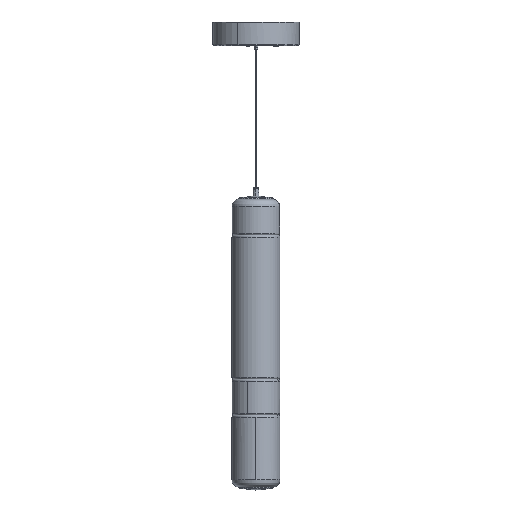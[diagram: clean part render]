
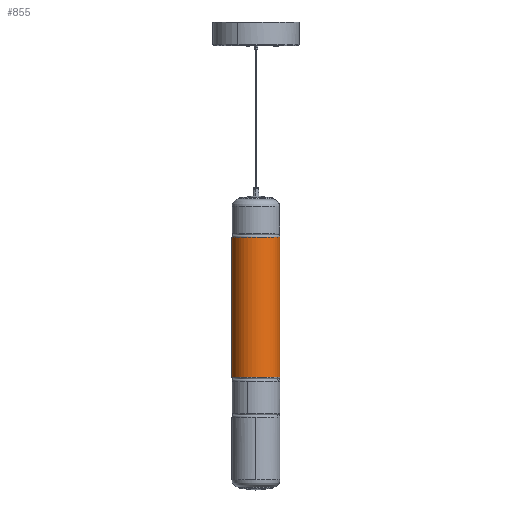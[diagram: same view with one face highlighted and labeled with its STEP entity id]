
A CAD part, left-side view. The second image highlights one B-rep face of the part: STEP entity #855.
In plain terms, the highlighted cylindrical face has radius 50 mm (diameter 100 mm), a partial arc.
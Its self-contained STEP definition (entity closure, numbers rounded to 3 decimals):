
#855=ADVANCED_FACE('',(#1653),#13110,.T.);
#1653=FACE_OUTER_BOUND('',#2481,.T.);
#2481=EDGE_LOOP('',(#4111,#4112,#4113,#4114,#4115,#4116));
#4111=ORIENTED_EDGE('',*,*,#7612,.T.);
#4112=ORIENTED_EDGE('',*,*,#7610,.T.);
#4113=ORIENTED_EDGE('',*,*,#7613,.T.);
#4114=ORIENTED_EDGE('',*,*,#7608,.F.);
#4115=ORIENTED_EDGE('',*,*,#7607,.F.);
#4116=ORIENTED_EDGE('',*,*,#7634,.F.);
#7607=EDGE_CURVE('',#11606,#11607,#9510,.T.);
#7608=EDGE_CURVE('',#11607,#11604,#9511,.T.);
#7610=EDGE_CURVE('',#11610,#11611,#9513,.T.);
#7612=EDGE_CURVE('',#11612,#11610,#9515,.T.);
#7613=EDGE_CURVE('',#11611,#11604,#10643,.T.);
#7634=EDGE_CURVE('',#11612,#11606,#10648,.T.);
#9510=(
BOUNDED_CURVE()
B_SPLINE_CURVE(2,(#17836,#17837,#17838),.UNSPECIFIED.,.F.,.F.)
B_SPLINE_CURVE_WITH_KNOTS((3,3),(144.513,216.77),
 .UNSPECIFIED.)
CURVE()
GEOMETRIC_REPRESENTATION_ITEM()
RATIONAL_B_SPLINE_CURVE((1.,0.707,1.))
REPRESENTATION_ITEM('')
);
#9511=(
BOUNDED_CURVE()
B_SPLINE_CURVE(2,(#17839,#17840,#17841),.UNSPECIFIED.,.F.,.F.)
B_SPLINE_CURVE_WITH_KNOTS((3,3),(216.77,289.027),
 .UNSPECIFIED.)
CURVE()
GEOMETRIC_REPRESENTATION_ITEM()
RATIONAL_B_SPLINE_CURVE((1.,0.707,1.))
REPRESENTATION_ITEM('')
);
#9513=(
BOUNDED_CURVE()
B_SPLINE_CURVE(2,(#17847,#17848,#17849),.UNSPECIFIED.,.F.,.F.)
B_SPLINE_CURVE_WITH_KNOTS((3,3),(0.,78.54),.UNSPECIFIED.)
CURVE()
GEOMETRIC_REPRESENTATION_ITEM()
RATIONAL_B_SPLINE_CURVE((1.,0.707,1.))
REPRESENTATION_ITEM('')
);
#9515=(
BOUNDED_CURVE()
B_SPLINE_CURVE(2,(#17855,#17856,#17857),.UNSPECIFIED.,.F.,.F.)
B_SPLINE_CURVE_WITH_KNOTS((3,3),(0.,78.54),.UNSPECIFIED.)
CURVE()
GEOMETRIC_REPRESENTATION_ITEM()
RATIONAL_B_SPLINE_CURVE((1.,0.707,1.))
REPRESENTATION_ITEM('')
);
#10643=B_SPLINE_CURVE_WITH_KNOTS('',1,(#17858,#17859),.UNSPECIFIED.,.F.,
 .F.,(2,2),(29.32,321.32),.UNSPECIFIED.);
#10648=B_SPLINE_CURVE_WITH_KNOTS('',1,(#17924,#17925),.UNSPECIFIED.,.F.,
 .F.,(2,2),(29.32,321.32),.UNSPECIFIED.);
#11604=VERTEX_POINT('',#17626);
#11606=VERTEX_POINT('',#17628);
#11607=VERTEX_POINT('',#17629);
#11610=VERTEX_POINT('',#17632);
#11611=VERTEX_POINT('',#17633);
#11612=VERTEX_POINT('',#17634);
#13110=CYLINDRICAL_SURFACE('',#13534,50.);
#13534=AXIS2_PLACEMENT_3D('',#17493,#14128,$);
#14128=DIRECTION('',(0.,0.,-1.));
#17493=CARTESIAN_POINT('',(0.,0.,-591.064));
#17626=CARTESIAN_POINT('',(0.,50.,-737.064));
#17628=CARTESIAN_POINT('',(0.,-50.,-737.064));
#17629=CARTESIAN_POINT('',(-50.,0.,-737.064));
#17632=CARTESIAN_POINT('',(-50.,0.,-445.064));
#17633=CARTESIAN_POINT('',(0.,50.,-445.064));
#17634=CARTESIAN_POINT('',(0.,-50.,-445.064));
#17836=CARTESIAN_POINT('',(0.,-50.,-737.064));
#17837=CARTESIAN_POINT('',(-50.,-50.,-737.064));
#17838=CARTESIAN_POINT('',(-50.,0.,-737.064));
#17839=CARTESIAN_POINT('',(-50.,0.,-737.064));
#17840=CARTESIAN_POINT('',(-50.,50.,-737.064));
#17841=CARTESIAN_POINT('',(0.,50.,-737.064));
#17847=CARTESIAN_POINT('',(-50.,0.,-445.064));
#17848=CARTESIAN_POINT('',(-50.,50.,-445.064));
#17849=CARTESIAN_POINT('',(0.,50.,-445.064));
#17855=CARTESIAN_POINT('',(0.,-50.,-445.064));
#17856=CARTESIAN_POINT('',(-50.,-50.,-445.064));
#17857=CARTESIAN_POINT('',(-50.,0.,-445.064));
#17858=CARTESIAN_POINT('',(0.,50.,-445.064));
#17859=CARTESIAN_POINT('',(0.,50.,-737.064));
#17924=CARTESIAN_POINT('',(0.,-50.,-445.064));
#17925=CARTESIAN_POINT('',(0.,-50.,-737.064));
